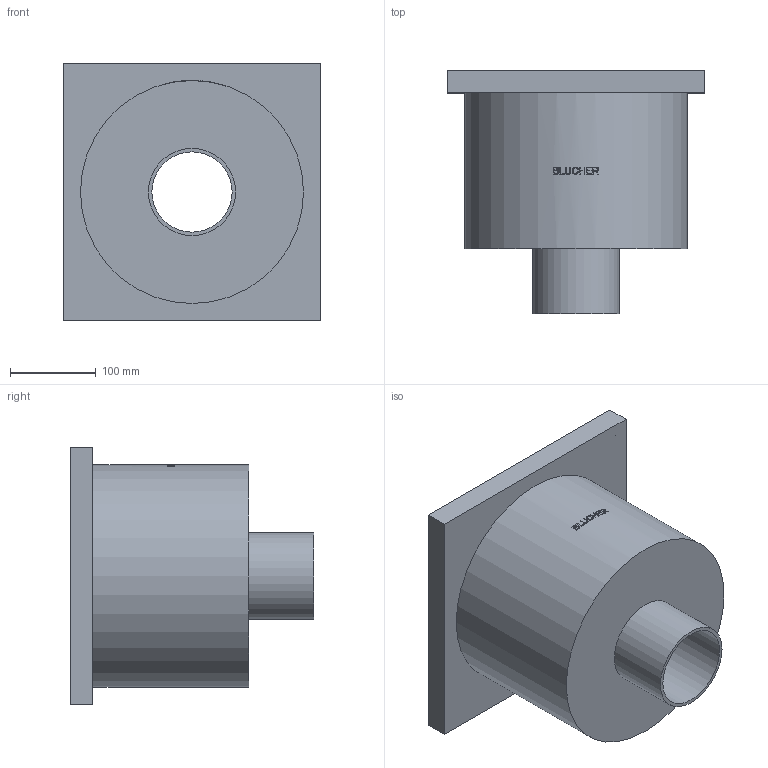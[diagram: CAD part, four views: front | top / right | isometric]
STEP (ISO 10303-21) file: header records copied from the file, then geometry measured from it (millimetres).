
FILE_DESCRIPTION((''),'2;1');
FILE_NAME('C:\Drawings\3D_CAD_Models\Blucher\BFD_Floor Drains_Complete_091119\BFD-300\WebsiteFiles\3D\STEP\BFD-344.stp','2009-11-29T11:33:41',('hofmansp'),(''),'Autodesk Inventor 2010','Autodesk Inventor 2010','');
FILE_SCHEMA(('AUTOMOTIVE_DESIGN { 1 0 10303 214 1 1 1 1 }'));
Length unit declared in the file: inch
Products named in the file (1): BFD-344
Bounding box: 300 x 284 x 300 mm (x, y, z)
Volume: 1051125.9 mm3; surface area: 565107.3 mm2
Topology: 1 solids, 1 shells, 116 faces, 302 edges, 202 vertices
Faces by surface type: plane 68, bspline 34, cylinder 14
Full cylindrical faces by diameter (mm): 93.6 x1, 101.6 x1, 255.999 x1, 260 x1
Entity records: 14288 total; most frequent: CARTESIAN_POINT 11710, ORIENTED_EDGE 592, DIRECTION 392, EDGE_CURVE 296, VERTEX_POINT 200, VECTOR 140, LINE 140, EDGE_LOOP 136
